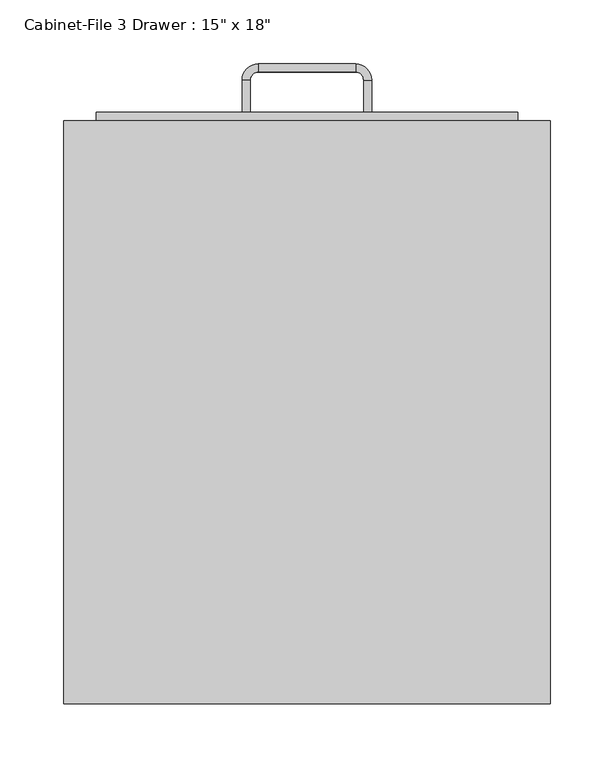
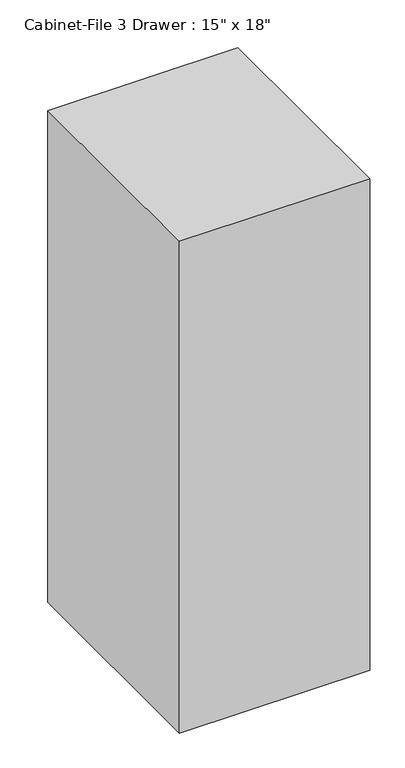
"""IFC4 building model written with IfcOpenShell, lengths in millimetres: furniture geometry."""

import ifcopenshell
import ifcopenshell.guid

model = None  # the IFC model being written
_history = None  # IfcOwnerHistory: only IFC2X3 demands one
_inside = {}  # id of a spatial element -> (the spatial element, [elements in it])
_under = {}  # id of a project, library or spatial element -> (it, [spatial elements below it])
_declared = {}  # id of a project -> (the project, [libraries it declares])
_typed = {}  # id of a type object -> (the type object, [elements of that type])
_made_of = {}  # id of a material, layer set ... -> (it, [elements and type objects made of it])


def new_model(schema):
    """Start an empty IFC model of exactly this schema.

    Asked for "IFC4X3", IfcOpenShell would pick the latest addendum, in which some entities
    have other attributes; the version numbers below select the first issue.
    IFC2X3 requires an IfcOwnerHistory on every rooted entity: one is made here for all.
    """
    global model, _history
    if schema == "IFC4X3":
        model = ifcopenshell.file(schema_version=(4, 3, 0, 0))
    else:
        model = ifcopenshell.file(schema=schema)
    _inside.clear()
    _under.clear()
    _declared.clear()
    _typed.clear()
    _made_of.clear()
    _history = None
    if model.schema == "IFC2X3":
        org = make("IfcOrganization", Name="unknown")
        user = make(
            "IfcPersonAndOrganization",
            ThePerson=make("IfcPerson", FamilyName="unknown"),
            TheOrganization=org,
        )
        app = make(
            "IfcApplication",
            ApplicationDeveloper=org,
            Version="unknown",
            ApplicationFullName="unknown",
            ApplicationIdentifier="unknown",
        )
        _history = make(
            "IfcOwnerHistory",
            OwningUser=user,
            OwningApplication=app,
            ChangeAction="ADDED",
            CreationDate=0,
        )
    return model


def make(cls, **values):
    """One entity of the class cls with the attributes given. An attribute that is None is left unset."""
    return model.create_entity(
        cls, **{name: value for name, value in values.items() if value is not None}
    )


def rooted(cls, **values):
    """An entity with a GlobalId (a new one), such as an element, a storey or a relation."""
    return make(cls, GlobalId=ifcopenshell.guid.new(), OwnerHistory=_history, **values)


def si_unit(unit_type, name, prefix=None):
    """IfcSIUnit, for example si_unit("LENGTHUNIT", "METRE", prefix="MILLI")."""
    return make("IfcSIUnit", UnitType=unit_type, Prefix=prefix, Name=name)


def assignment(units):
    """IfcUnitAssignment: the units of a project."""
    return None if units is None else make("IfcUnitAssignment", Units=units)


def point(xyz):
    """IfcCartesianPoint."""
    return None if xyz is None else make("IfcCartesianPoint", Coordinates=xyz)


def direction(xyz):
    """IfcDirection."""
    return None if xyz is None else make("IfcDirection", DirectionRatios=xyz)


def frame(location, z_axis=None, x_axis=None):
    """IfcAxis2Placement3D, a coordinate frame: its origin and axes. An axis left out is left unset."""
    return make(
        "IfcAxis2Placement3D",
        Location=point(location),
        Axis=direction(z_axis),
        RefDirection=direction(x_axis),
    )


def origin():
    """The frame at (0, 0, 0) with its axes left unset."""
    return frame((0.0, 0.0, 0.0))


def origin_with_axes():
    """The frame at (0, 0, 0) with the z axis (0, 0, 1) and the x axis (1, 0, 0) written out."""
    return frame((0.0, 0.0, 0.0), z_axis=(0.0, 0.0, 1.0), x_axis=(1.0, 0.0, 0.0))


def place(relative_to, where):
    """IfcLocalPlacement: puts the frame where relative to a parent placement (None: the world)."""
    return make(
        "IfcLocalPlacement", PlacementRelTo=relative_to, RelativePlacement=where
    )


def context(
    kind, dimensions, precision=None, world=None, true_north=None, identifier=None
):
    """IfcGeometricRepresentationContext, for example the 3D "Model" context."""
    return make(
        "IfcGeometricRepresentationContext",
        ContextIdentifier=identifier,
        ContextType=kind,
        CoordinateSpaceDimension=dimensions,
        Precision=precision,
        WorldCoordinateSystem=world,
        TrueNorth=true_north,
    )


def project(units=None, contexts=None):
    """IfcProject with its units and contexts."""
    return rooted(
        "IfcProject",
        Name="project",
        RepresentationContexts=contexts,
        UnitsInContext=assignment(units),
    )


def spatial(cls, under=None, at=None, **own):
    """A site, building, storey or space (cls), placed at a placement, below another one or the project."""
    s = rooted(cls, ObjectPlacement=at, **own)
    if under is not None:
        _under.setdefault(under.id(), (under, []))[1].append(s)
    return s


def polyline(points):
    """IfcPolyline through the points."""
    return make("IfcPolyline", Points=[point(p) for p in points])


def circle_curve(where, radius):
    """IfcCircle in the frame where."""
    return make("IfcCircle", Position=where, Radius=radius)


def outline(outer, holes=None, kind="AREA"):
    """IfcArbitraryClosedProfileDef: a profile drawn as a closed curve; with holes, ...WithVoids."""
    if holes is None:
        return make("IfcArbitraryClosedProfileDef", ProfileType=kind, OuterCurve=outer)
    return make(
        "IfcArbitraryProfileDefWithVoids",
        ProfileType=kind,
        OuterCurve=outer,
        InnerCurves=holes,
    )


def extrude(swept, where, along, depth):
    """IfcExtrudedAreaSolid: the profile swept, set in the frame where, extruded along a direction by depth."""
    return make(
        "IfcExtrudedAreaSolid",
        SweptArea=swept,
        Position=where,
        ExtrudedDirection=direction(along),
        Depth=depth,
    )


def shape(context_of_items, identifier, shape_type, items):
    """IfcShapeRepresentation: the items that make up one representation, for example the "Body"."""
    return make(
        "IfcShapeRepresentation",
        ContextOfItems=context_of_items,
        RepresentationIdentifier=identifier,
        RepresentationType=shape_type,
        Items=items,
    )


def source(mapping_origin, context_of_items, identifier, shape_type, items):
    """IfcRepresentationMap: a shape defined once, which mapped items show again and again."""
    return make(
        "IfcRepresentationMap",
        MappingOrigin=mapping_origin,
        MappedRepresentation=shape(context_of_items, identifier, shape_type, items),
    )


def transform(
    local_origin,
    x_axis=None,
    y_axis=None,
    z_axis=None,
    scale=None,
    scale2=None,
    scale3=None,
    uniform=True,
):
    """IfcCartesianTransformationOperator3D, or its non-uniform kind. x_axis, y_axis, z_axis: its Axis1, 2, 3."""
    if uniform:
        return make(
            "IfcCartesianTransformationOperator3D",
            Axis1=direction(x_axis),
            Axis2=direction(y_axis),
            LocalOrigin=point(local_origin),
            Scale=scale,
            Axis3=direction(z_axis),
        )
    return make(
        "IfcCartesianTransformationOperator3DnonUniform",
        Axis1=direction(x_axis),
        Axis2=direction(y_axis),
        LocalOrigin=point(local_origin),
        Scale=scale,
        Axis3=direction(z_axis),
        Scale2=scale2,
        Scale3=scale3,
    )


def mapped(mapping_source, mapping_target):
    """IfcMappedItem: shows the shape of a source again, moved by a transform."""
    return make(
        "IfcMappedItem", MappingSource=mapping_source, MappingTarget=mapping_target
    )


def made_of(thing, what):
    """Note that an element or type object is made of a material, layer set ...; save() writes the relation."""
    if what is not None:
        _made_of.setdefault(what.id(), (what, []))[1].append(thing)
    return thing


def element(
    cls,
    number,
    at=None,
    inside=None,
    cuts=None,
    type_object=None,
    material=None,
    context=None,
    identifier="Body",
    shape_type=None,
    held_by="IfcProductDefinitionShape",
    body=None,
    shapes=None,
    **own,
):
    """One element of the class cls, such as IfcWall. Its Tag is "e" and its number.

    at: its placement. inside: the storey or other place that contains it. cuts: it is an
    opening in that element (IfcRelVoidsElement). A single representation is given by context,
    identifier, shape_type and body (its items); several are given by shapes. held_by: the class
    of the entity that holds the representations. save() writes the other relations.
    """
    e = rooted(cls, Tag="e%d" % number, ObjectPlacement=at, **own)
    if body is not None:
        shapes = [shape(context, identifier, shape_type, body)]
    if shapes is not None:
        e.Representation = make(held_by, Representations=shapes)
    if inside is not None:
        _inside.setdefault(inside.id(), (inside, []))[1].append(e)
    if cuts is not None:
        rooted(
            "IfcRelVoidsElement", RelatingBuildingElement=cuts, RelatedOpeningElement=e
        )
    if type_object is not None:
        _typed.setdefault(type_object.id(), (type_object, []))[1].append(e)
    return made_of(e, material)


def aggregate(whole, parts):
    """IfcRelAggregates: a whole, such as a stair, and the parts it consists of."""
    return rooted("IfcRelAggregates", RelatingObject=whole, RelatedObjects=parts)


def save(model, path):
    """Write the relations noted so far, then the file.

    IfcRelAggregates (storeys below a building ...), IfcRelContainedInSpatialStructure (elements
    in a storey), IfcRelDefinesByType, IfcRelAssociatesMaterial and IfcRelDeclares: one each for
    every whole, place, type object, material and project.
    """
    for whole, parts in _under.values():
        aggregate(whole, parts)
    for where, things in _inside.values():
        rooted(
            "IfcRelContainedInSpatialStructure",
            RelatedElements=things,
            RelatingStructure=where,
        )
    for kind, things in _typed.values():
        rooted("IfcRelDefinesByType", RelatedObjects=things, RelatingType=kind)
    for what, things in _made_of.values():
        rooted("IfcRelAssociatesMaterial", RelatedObjects=things, RelatingMaterial=what)
    for by, libraries in _declared.values():
        rooted("IfcRelDeclares", RelatingContext=by, RelatedDefinitions=libraries)
    model.write(path)


def plane_surface(at):
    """IfcPlane: the flat surface through the origin of the frame at, square to its z axis."""
    return make("IfcPlane", Position=at)


def cylinder_surface(at, radius):
    """IfcCylindricalSurface: all points at the distance radius from the z axis of the frame at."""
    return make("IfcCylindricalSurface", Position=at, Radius=radius)


def revolved_surface(curve, axis_point, axis_direction):
    """IfcSurfaceOfRevolution: the curve turned about the line through axis_point along axis_direction."""
    return make(
        "IfcSurfaceOfRevolution",
        SweptCurve=make("IfcArbitraryOpenProfileDef", ProfileType="CURVE", Curve=curve),
        AxisPosition=make("IfcAxis1Placement", Location=point(axis_point), Axis=direction(axis_direction)),
    )


def advanced_brep(points, edges, surfaces, faces):
    """IfcAdvancedBrep: a solid bounded by faces that lie on surfaces and meet in shared edges.

    An edge is (start, end): straight between two places in points (the first is 0);
    or (start, end, curve); or (start, end, curve, False) where it runs against its curve.
    A face is (place in surfaces, loops), or (place, loops, False) where it looks against
    its surface's normal. A loop lists edges by number (the first is 1), with a minus sign
    where the edge is run from its end to its start. The first loop is the outer one.
    """
    corners = [point(p) for p in points]
    vertices = [make("IfcVertexPoint", VertexGeometry=c) for c in corners]
    made = []
    for start, end, *more in edges:
        made.append(
            make(
                "IfcEdgeCurve",
                EdgeStart=vertices[start],
                EdgeEnd=vertices[end],
                EdgeGeometry=more[0] if more else make("IfcPolyline", Points=[corners[start], corners[end]]),
                SameSense=more[1] if len(more) > 1 else True,
            )
        )
    hull = []
    for where, loops, *sense in faces:
        bounds = []
        for j, loop in enumerate(loops):
            ring = [make("IfcOrientedEdge", EdgeElement=made[abs(k) - 1], Orientation=k > 0) for k in loop]
            bounds.append(
                make(
                    "IfcFaceOuterBound" if j == 0 else "IfcFaceBound",
                    Bound=make("IfcEdgeLoop", EdgeList=ring),
                    Orientation=True,
                )
            )
        hull.append(make("IfcAdvancedFace", Bounds=bounds, FaceSurface=surfaces[where], SameSense=sense[0] if sense else True))
    return make("IfcAdvancedBrep", Outer=make("IfcClosedShell", CfsFaces=hull))


def furniture_48aa8ab9(model_context):
    return source(origin(), model_context, "Body", "SolidModel", [
        extrude(outline(polyline([(62.603553, -86.4656999), (-318.396447, -86.4656999), (-318.396447, 370.7343001), (62.603553, 370.7343001), (62.603553, -86.4656999)])), origin_with_axes(), (0.0, 0.0, 1.0), 1041.4),
        extrude(outline(polyline([(37.203553, 377.0843001), (37.203553, 370.7343001), (-292.996447, 370.7343001), (-292.996447, 377.0843001), (37.203553, 377.0843001)])), frame((0.0, 0.0, 736.6), z_axis=(0.0, 0.0, 1.0), x_axis=(1.0, 0.0, 0.0)), (0.0, 0.0, 1.0), 279.4),
        extrude(outline(polyline([(37.203553, 377.0843001), (37.203553, 370.7343001), (-292.996447, 370.7343001), (-292.996447, 377.0843001), (37.203553, 377.0843001)])), frame((0.0, 0.0, 431.8), z_axis=(0.0, 0.0, 1.0), x_axis=(1.0, 0.0, 0.0)), (0.0, 0.0, 1.0), 279.4),
        extrude(outline(polyline([(37.203553, 377.0843001), (37.203553, 370.7343001), (-292.996447, 370.7343001), (-292.996447, 377.0843001), (37.203553, 377.0843001)])), frame((0.0, 0.0, 127.0), z_axis=(0.0, 0.0, 1.0), x_axis=(1.0, 0.0, 0.0)), (0.0, 0.0, 1.0), 279.4),
        advanced_brep(
        [(-172.346447, 377.0843001, 203.2), (-172.346447, 377.0843001, 215.9), (-178.696447, 377.0843001, 215.9), (-178.696447, 377.0843001, 203.2), (-178.696447, 402.4843001, 203.2), (-172.346447, 402.4843001, 203.2), (-178.696447, 402.4843001, 215.9), (-172.346447, 402.4843001, 215.9), (-165.996447, 415.1843001, 203.2), (-165.996447, 408.8343001, 203.2), (-165.996447, 415.1843001, 215.9), (-165.996447, 408.8343001, 215.9), (-89.796447, 415.1843001, 203.2), (-89.796447, 408.8343001, 203.2), (-89.796447, 415.1843001, 215.9), (-89.796447, 408.8343001, 215.9), (-77.096447, 402.4843001, 203.2), (-83.446447, 402.4843001, 203.2), (-77.096447, 402.4843001, 215.9), (-83.446447, 402.4843001, 215.9), (-83.446447, 377.0843001, 203.2), (-77.096447, 377.0843001, 203.2), (-77.096447, 377.0843001, 215.9), (-83.446447, 377.0843001, 215.9)],
        [
            (0, 1),
            (1, 2),
            (2, 3),
            (3, 0),
            (3, 4),
            (4, 5),
            (5, 0),
            (2, 6),
            (6, 4),
            (1, 7),
            (7, 6),
            (5, 7),
            (8, 9),
            (9, 5, circle_curve(frame((-165.996447, 402.4843001, 203.2), z_axis=(0.0, 0.0, 1.0), x_axis=(-1.0, 0.0, 0.0)), 6.35)),
            (4, 8, circle_curve(frame((-165.996447, 402.4843001, 203.2), z_axis=(0.0, 0.0, -1.0), x_axis=(-1.0, 0.0, 0.0)), 12.7)),
            (10, 8),
            (6, 10, circle_curve(frame((-165.996447, 402.4843001, 215.9), z_axis=(0.0, 0.0, -1.0), x_axis=(-1.0, 0.0, 0.0)), 12.7)),
            (11, 10),
            (7, 11, circle_curve(frame((-165.996447, 402.4843001, 215.9), z_axis=(0.0, 0.0, -1.0), x_axis=(-1.0, 0.0, 0.0)), 6.35)),
            (9, 11),
            (8, 12),
            (12, 13),
            (13, 9),
            (10, 14),
            (14, 12),
            (11, 15),
            (15, 14),
            (13, 15),
            (16, 17),
            (17, 13, circle_curve(frame((-89.796447, 402.4843001, 203.2), z_axis=(0.0, 0.0, 1.0), x_axis=(0.0, 1.0, 0.0)), 6.35)),
            (12, 16, circle_curve(frame((-89.796447, 402.4843001, 203.2), z_axis=(0.0, 0.0, -1.0), x_axis=(0.0, 1.0, 0.0)), 12.7)),
            (18, 16),
            (14, 18, circle_curve(frame((-89.796447, 402.4843001, 215.9), z_axis=(0.0, 0.0, -1.0), x_axis=(0.0, 1.0, 0.0)), 12.7)),
            (19, 18),
            (15, 19, circle_curve(frame((-89.796447, 402.4843001, 215.9), z_axis=(0.0, 0.0, -1.0), x_axis=(0.0, 1.0, 0.0)), 6.35)),
            (17, 19),
            (20, 21),
            (21, 22),
            (22, 23),
            (23, 20),
            (16, 21),
            (20, 17),
            (18, 22),
            (19, 23),
        ],
        [
            plane_surface(frame((-978.8216451, 377.0843001, 0.0), z_axis=(0.0, -1.0, 0.0), x_axis=(0.0, 0.0, -1.0))),
            plane_surface(frame((-172.346447, 377.0843001, 203.2), z_axis=(0.0, 0.0, -1.0), x_axis=(0.0, 1.0, 0.0))),
            plane_surface(frame((-178.696447, 377.0843001, 203.2), z_axis=(-1.0, 0.0, 0.0), x_axis=(0.0, 1.0, 0.0))),
            plane_surface(frame((-178.696447, 377.0843001, 215.9), z_axis=(0.0, 0.0, 1.0), x_axis=(0.0, 1.0, 0.0))),
            plane_surface(frame((-172.346447, 377.0843001, 215.9), z_axis=(1.0, 0.0, 0.0), x_axis=(0.0, 1.0, 0.0))),
            plane_surface(frame((-165.996447, 402.4843001, 203.2), z_axis=(0.0, 0.0, -1.0), x_axis=(-1.0, 0.0, 0.0))),
            cylinder_surface(frame((-165.996447, 402.4843001, 0.0), z_axis=(0.0, 0.0, 1.0), x_axis=(-1.0, 0.0, 0.0)), 12.7),
            plane_surface(frame((-165.996447, 402.4843001, 215.9), z_axis=(0.0, 0.0, 1.0), x_axis=(-1.0, 0.0, 0.0))),
            revolved_surface(polyline([(-172.34644699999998, 402.4843001, 215.9), (-172.34644699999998, 402.4843001, 203.2)]), (-165.996447, 402.4843001, 0.0), (0.0, 0.0, 1.0)),
            plane_surface(frame((-165.996447, 408.8343001, 203.2), z_axis=(0.0, 0.0, -1.0), x_axis=(1.0, 0.0, 0.0))),
            plane_surface(frame((-165.996447, 415.1843001, 203.2), z_axis=(0.0, 1.0, 0.0), x_axis=(1.0, 0.0, 0.0))),
            plane_surface(frame((-165.996447, 415.1843001, 215.9), z_axis=(0.0, 0.0, 1.0), x_axis=(1.0, 0.0, 0.0))),
            plane_surface(frame((-165.996447, 408.8343001, 215.9), z_axis=(0.0, -1.0, 0.0), x_axis=(1.0, 0.0, 0.0))),
            plane_surface(frame((-89.796447, 402.4843001, 203.2), z_axis=(0.0, 0.0, -1.0), x_axis=(0.0, 1.0, 0.0))),
            cylinder_surface(frame((-89.796447, 402.4843001, 0.0), z_axis=(0.0, 0.0, 1.0), x_axis=(0.0, 1.0, 0.0)), 12.7),
            plane_surface(frame((-89.796447, 402.4843001, 215.9), z_axis=(0.0, 0.0, 1.0), x_axis=(0.0, 1.0, 0.0))),
            revolved_surface(polyline([(-89.796447, 408.8343001, 215.9), (-89.796447, 408.8343001, 203.2)]), (-89.796447, 402.4843001, 0.0), (0.0, 0.0, 1.0)),
            plane_surface(frame((-877.2216451, 377.0843001, 0.0), z_axis=(0.0, -1.0, 0.0), x_axis=(0.0, 0.0, 1.0))),
            plane_surface(frame((-83.446447, 402.4843001, 203.2), z_axis=(0.0, 0.0, -1.0), x_axis=(0.0, -1.0, 0.0))),
            plane_surface(frame((-77.096447, 402.4843001, 203.2), z_axis=(1.0, 0.0, 0.0), x_axis=(0.0, -1.0, 0.0))),
            plane_surface(frame((-77.096447, 402.4843001, 215.9), z_axis=(0.0, 0.0, 1.0), x_axis=(0.0, -1.0, 0.0))),
            plane_surface(frame((-83.446447, 402.4843001, 215.9), z_axis=(-1.0, 0.0, 0.0), x_axis=(0.0, -1.0, 0.0))),
        ],
        [
            (0, [[1, 2, 3, 4]]),
            (1, [[5, 6, 7, -4]]),
            (2, [[8, 9, -5, -3]]),
            (3, [[10, 11, -8, -2]]),
            (4, [[-7, 12, -10, -1]]),
            (5, [[13, 14, -6, 15]]),
            (6, [[16, -15, -9, 17]]),
            (7, [[18, -17, -11, 19]]),
            (8, [[20, -19, -12, -14]]),
            (9, [[21, 22, 23, -13]]),
            (10, [[24, 25, -21, -16]]),
            (11, [[26, 27, -24, -18]]),
            (12, [[-23, 28, -26, -20]]),
            (13, [[29, 30, -22, 31]]),
            (14, [[32, -31, -25, 33]]),
            (15, [[34, -33, -27, 35]]),
            (16, [[36, -35, -28, -30]]),
            (17, [[37, 38, 39, 40]]),
            (18, [[41, -37, 42, -29]]),
            (19, [[43, -38, -41, -32]]),
            (20, [[44, -39, -43, -34]]),
            (21, [[-42, -40, -44, -36]]),
        ],
    ),
        advanced_brep(
        [(-172.346447, 377.0843001, 482.6), (-172.346447, 377.0843001, 495.3), (-178.696447, 377.0843001, 495.3), (-178.696447, 377.0843001, 482.6), (-178.696447, 402.4843001, 482.6), (-172.346447, 402.4843001, 482.6), (-178.696447, 402.4843001, 495.3), (-172.346447, 402.4843001, 495.3), (-165.996447, 415.1843001, 482.6), (-165.996447, 408.8343001, 482.6), (-165.996447, 415.1843001, 495.3), (-165.996447, 408.8343001, 495.3), (-89.796447, 415.1843001, 482.6), (-89.796447, 408.8343001, 482.6), (-89.796447, 415.1843001, 495.3), (-89.796447, 408.8343001, 495.3), (-77.096447, 402.4843001, 482.6), (-83.446447, 402.4843001, 482.6), (-77.096447, 402.4843001, 495.3), (-83.446447, 402.4843001, 495.3), (-83.446447, 377.0843001, 482.6), (-77.096447, 377.0843001, 482.6), (-77.096447, 377.0843001, 495.3), (-83.446447, 377.0843001, 495.3)],
        [
            (0, 1),
            (1, 2),
            (2, 3),
            (3, 0),
            (3, 4),
            (4, 5),
            (5, 0),
            (2, 6),
            (6, 4),
            (1, 7),
            (7, 6),
            (5, 7),
            (8, 9),
            (9, 5, circle_curve(frame((-165.996447, 402.4843001, 482.6), z_axis=(0.0, 0.0, 1.0), x_axis=(-1.0, 0.0, 0.0)), 6.35)),
            (4, 8, circle_curve(frame((-165.996447, 402.4843001, 482.6), z_axis=(0.0, 0.0, -1.0), x_axis=(-1.0, 0.0, 0.0)), 12.7)),
            (10, 8),
            (6, 10, circle_curve(frame((-165.996447, 402.4843001, 495.3), z_axis=(0.0, 0.0, -1.0), x_axis=(-1.0, 0.0, 0.0)), 12.7)),
            (11, 10),
            (7, 11, circle_curve(frame((-165.996447, 402.4843001, 495.3), z_axis=(0.0, 0.0, -1.0), x_axis=(-1.0, 0.0, 0.0)), 6.35)),
            (9, 11),
            (8, 12),
            (12, 13),
            (13, 9),
            (10, 14),
            (14, 12),
            (11, 15),
            (15, 14),
            (13, 15),
            (16, 17),
            (17, 13, circle_curve(frame((-89.796447, 402.4843001, 482.6), z_axis=(0.0, 0.0, 1.0), x_axis=(0.0, 1.0, 0.0)), 6.35)),
            (12, 16, circle_curve(frame((-89.796447, 402.4843001, 482.6), z_axis=(0.0, 0.0, -1.0), x_axis=(0.0, 1.0, 0.0)), 12.7)),
            (18, 16),
            (14, 18, circle_curve(frame((-89.796447, 402.4843001, 495.3), z_axis=(0.0, 0.0, -1.0), x_axis=(0.0, 1.0, 0.0)), 12.7)),
            (19, 18),
            (15, 19, circle_curve(frame((-89.796447, 402.4843001, 495.3), z_axis=(0.0, 0.0, -1.0), x_axis=(0.0, 1.0, 0.0)), 6.35)),
            (17, 19),
            (20, 21),
            (21, 22),
            (22, 23),
            (23, 20),
            (16, 21),
            (20, 17),
            (18, 22),
            (19, 23),
        ],
        [
            plane_surface(frame((-978.8216451, 377.0843001, 0.0), z_axis=(0.0, -1.0, 0.0), x_axis=(0.0, 0.0, -1.0))),
            plane_surface(frame((-172.346447, 377.0843001, 482.6), z_axis=(0.0, 0.0, -1.0), x_axis=(0.0, 1.0, 0.0))),
            plane_surface(frame((-178.696447, 377.0843001, 482.6), z_axis=(-1.0, 0.0, 0.0), x_axis=(0.0, 1.0, 0.0))),
            plane_surface(frame((-178.696447, 377.0843001, 495.3), z_axis=(0.0, 0.0, 1.0), x_axis=(0.0, 1.0, 0.0))),
            plane_surface(frame((-172.346447, 377.0843001, 495.3), z_axis=(1.0, 0.0, 0.0), x_axis=(0.0, 1.0, 0.0))),
            plane_surface(frame((-165.996447, 402.4843001, 482.6), z_axis=(0.0, 0.0, -1.0), x_axis=(-1.0, 0.0, 0.0))),
            cylinder_surface(frame((-165.996447, 402.4843001, 0.0), z_axis=(0.0, 0.0, 1.0), x_axis=(-1.0, 0.0, 0.0)), 12.7),
            plane_surface(frame((-165.996447, 402.4843001, 495.3), z_axis=(0.0, 0.0, 1.0), x_axis=(-1.0, 0.0, 0.0))),
            revolved_surface(polyline([(-172.34644699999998, 402.4843001, 495.3), (-172.34644699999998, 402.4843001, 482.6)]), (-165.996447, 402.4843001, 0.0), (0.0, 0.0, 1.0)),
            plane_surface(frame((-165.996447, 408.8343001, 482.6), z_axis=(0.0, 0.0, -1.0), x_axis=(1.0, 0.0, 0.0))),
            plane_surface(frame((-165.996447, 415.1843001, 482.6), z_axis=(0.0, 1.0, 0.0), x_axis=(1.0, 0.0, 0.0))),
            plane_surface(frame((-165.996447, 415.1843001, 495.3), z_axis=(0.0, 0.0, 1.0), x_axis=(1.0, 0.0, 0.0))),
            plane_surface(frame((-165.996447, 408.8343001, 495.3), z_axis=(0.0, -1.0, 0.0), x_axis=(1.0, 0.0, 0.0))),
            plane_surface(frame((-89.796447, 402.4843001, 482.6), z_axis=(0.0, 0.0, -1.0), x_axis=(0.0, 1.0, 0.0))),
            cylinder_surface(frame((-89.796447, 402.4843001, 0.0), z_axis=(0.0, 0.0, 1.0), x_axis=(0.0, 1.0, 0.0)), 12.7),
            plane_surface(frame((-89.796447, 402.4843001, 495.3), z_axis=(0.0, 0.0, 1.0), x_axis=(0.0, 1.0, 0.0))),
            revolved_surface(polyline([(-89.796447, 408.8343001, 495.3), (-89.796447, 408.8343001, 482.6)]), (-89.796447, 402.4843001, 0.0), (0.0, 0.0, 1.0)),
            plane_surface(frame((-877.2216451, 377.0843001, 0.0), z_axis=(0.0, -1.0, 0.0), x_axis=(0.0, 0.0, 1.0))),
            plane_surface(frame((-83.446447, 402.4843001, 482.6), z_axis=(0.0, 0.0, -1.0), x_axis=(0.0, -1.0, 0.0))),
            plane_surface(frame((-77.096447, 402.4843001, 482.6), z_axis=(1.0, 0.0, 0.0), x_axis=(0.0, -1.0, 0.0))),
            plane_surface(frame((-77.096447, 402.4843001, 495.3), z_axis=(0.0, 0.0, 1.0), x_axis=(0.0, -1.0, 0.0))),
            plane_surface(frame((-83.446447, 402.4843001, 495.3), z_axis=(-1.0, 0.0, 0.0), x_axis=(0.0, -1.0, 0.0))),
        ],
        [
            (0, [[1, 2, 3, 4]]),
            (1, [[5, 6, 7, -4]]),
            (2, [[8, 9, -5, -3]]),
            (3, [[10, 11, -8, -2]]),
            (4, [[-7, 12, -10, -1]]),
            (5, [[13, 14, -6, 15]]),
            (6, [[16, -15, -9, 17]]),
            (7, [[18, -17, -11, 19]]),
            (8, [[20, -19, -12, -14]]),
            (9, [[21, 22, 23, -13]]),
            (10, [[24, 25, -21, -16]]),
            (11, [[26, 27, -24, -18]]),
            (12, [[-23, 28, -26, -20]]),
            (13, [[29, 30, -22, 31]]),
            (14, [[32, -31, -25, 33]]),
            (15, [[34, -33, -27, 35]]),
            (16, [[36, -35, -28, -30]]),
            (17, [[37, 38, 39, 40]]),
            (18, [[41, -37, 42, -29]]),
            (19, [[43, -38, -41, -32]]),
            (20, [[44, -39, -43, -34]]),
            (21, [[-42, -40, -44, -36]]),
        ],
    ),
        advanced_brep(
        [(-172.346447, 377.0843001, 787.4), (-172.346447, 377.0843001, 800.1), (-178.696447, 377.0843001, 800.1), (-178.696447, 377.0843001, 787.4), (-178.696447, 402.4843001, 787.4), (-172.346447, 402.4843001, 787.4), (-178.696447, 402.4843001, 800.1), (-172.346447, 402.4843001, 800.1), (-165.996447, 415.1843001, 787.4), (-165.996447, 408.8343001, 787.4), (-165.996447, 415.1843001, 800.1), (-165.996447, 408.8343001, 800.1), (-89.796447, 415.1843001, 787.4), (-89.796447, 408.8343001, 787.4), (-89.796447, 415.1843001, 800.1), (-89.796447, 408.8343001, 800.1), (-77.096447, 402.4843001, 787.4), (-83.446447, 402.4843001, 787.4), (-77.096447, 402.4843001, 800.1), (-83.446447, 402.4843001, 800.1), (-83.446447, 377.0843001, 787.4), (-77.096447, 377.0843001, 787.4), (-77.096447, 377.0843001, 800.1), (-83.446447, 377.0843001, 800.1)],
        [
            (0, 1),
            (1, 2),
            (2, 3),
            (3, 0),
            (3, 4),
            (4, 5),
            (5, 0),
            (2, 6),
            (6, 4),
            (1, 7),
            (7, 6),
            (5, 7),
            (8, 9),
            (9, 5, circle_curve(frame((-165.996447, 402.4843001, 787.4), z_axis=(0.0, 0.0, 1.0), x_axis=(-1.0, 0.0, 0.0)), 6.35)),
            (4, 8, circle_curve(frame((-165.996447, 402.4843001, 787.4), z_axis=(0.0, 0.0, -1.0), x_axis=(-1.0, 0.0, 0.0)), 12.7)),
            (10, 8),
            (6, 10, circle_curve(frame((-165.996447, 402.4843001, 800.1), z_axis=(0.0, 0.0, -1.0), x_axis=(-1.0, 0.0, 0.0)), 12.7)),
            (11, 10),
            (7, 11, circle_curve(frame((-165.996447, 402.4843001, 800.1), z_axis=(0.0, 0.0, -1.0), x_axis=(-1.0, 0.0, 0.0)), 6.35)),
            (9, 11),
            (8, 12),
            (12, 13),
            (13, 9),
            (10, 14),
            (14, 12),
            (11, 15),
            (15, 14),
            (13, 15),
            (16, 17),
            (17, 13, circle_curve(frame((-89.796447, 402.4843001, 787.4), z_axis=(0.0, 0.0, 1.0), x_axis=(0.0, 1.0, 0.0)), 6.35)),
            (12, 16, circle_curve(frame((-89.796447, 402.4843001, 787.4), z_axis=(0.0, 0.0, -1.0), x_axis=(0.0, 1.0, 0.0)), 12.7)),
            (18, 16),
            (14, 18, circle_curve(frame((-89.796447, 402.4843001, 800.1), z_axis=(0.0, 0.0, -1.0), x_axis=(0.0, 1.0, 0.0)), 12.7)),
            (19, 18),
            (15, 19, circle_curve(frame((-89.796447, 402.4843001, 800.1), z_axis=(0.0, 0.0, -1.0), x_axis=(0.0, 1.0, 0.0)), 6.35)),
            (17, 19),
            (20, 21),
            (21, 22),
            (22, 23),
            (23, 20),
            (16, 21),
            (20, 17),
            (18, 22),
            (19, 23),
        ],
        [
            plane_surface(frame((-978.8216451, 377.0843001, 0.0), z_axis=(0.0, -1.0, 0.0), x_axis=(0.0, 0.0, -1.0))),
            plane_surface(frame((-172.346447, 377.0843001, 787.4), z_axis=(0.0, 0.0, -1.0), x_axis=(0.0, 1.0, 0.0))),
            plane_surface(frame((-178.696447, 377.0843001, 787.4), z_axis=(-1.0, 0.0, 0.0), x_axis=(0.0, 1.0, 0.0))),
            plane_surface(frame((-178.696447, 377.0843001, 800.1), z_axis=(0.0, 0.0, 1.0), x_axis=(0.0, 1.0, 0.0))),
            plane_surface(frame((-172.346447, 377.0843001, 800.1), z_axis=(1.0, 0.0, 0.0), x_axis=(0.0, 1.0, 0.0))),
            plane_surface(frame((-165.996447, 402.4843001, 787.4), z_axis=(0.0, 0.0, -1.0), x_axis=(-1.0, 0.0, 0.0))),
            cylinder_surface(frame((-165.996447, 402.4843001, 0.0), z_axis=(0.0, 0.0, 1.0), x_axis=(-1.0, 0.0, 0.0)), 12.7),
            plane_surface(frame((-165.996447, 402.4843001, 800.1), z_axis=(0.0, 0.0, 1.0), x_axis=(-1.0, 0.0, 0.0))),
            revolved_surface(polyline([(-172.34644699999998, 402.4843001, 800.1), (-172.34644699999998, 402.4843001, 787.4)]), (-165.996447, 402.4843001, 0.0), (0.0, 0.0, 1.0)),
            plane_surface(frame((-165.996447, 408.8343001, 787.4), z_axis=(0.0, 0.0, -1.0), x_axis=(1.0, 0.0, 0.0))),
            plane_surface(frame((-165.996447, 415.1843001, 787.4), z_axis=(0.0, 1.0, 0.0), x_axis=(1.0, 0.0, 0.0))),
            plane_surface(frame((-165.996447, 415.1843001, 800.1), z_axis=(0.0, 0.0, 1.0), x_axis=(1.0, 0.0, 0.0))),
            plane_surface(frame((-165.996447, 408.8343001, 800.1), z_axis=(0.0, -1.0, 0.0), x_axis=(1.0, 0.0, 0.0))),
            plane_surface(frame((-89.796447, 402.4843001, 787.4), z_axis=(0.0, 0.0, -1.0), x_axis=(0.0, 1.0, 0.0))),
            cylinder_surface(frame((-89.796447, 402.4843001, 0.0), z_axis=(0.0, 0.0, 1.0), x_axis=(0.0, 1.0, 0.0)), 12.7),
            plane_surface(frame((-89.796447, 402.4843001, 800.1), z_axis=(0.0, 0.0, 1.0), x_axis=(0.0, 1.0, 0.0))),
            revolved_surface(polyline([(-89.796447, 408.8343001, 800.1), (-89.796447, 408.8343001, 787.4)]), (-89.796447, 402.4843001, 0.0), (0.0, 0.0, 1.0)),
            plane_surface(frame((-877.2216451, 377.0843001, 0.0), z_axis=(0.0, -1.0, 0.0), x_axis=(0.0, 0.0, 1.0))),
            plane_surface(frame((-83.446447, 402.4843001, 787.4), z_axis=(0.0, 0.0, -1.0), x_axis=(0.0, -1.0, 0.0))),
            plane_surface(frame((-77.096447, 402.4843001, 787.4), z_axis=(1.0, 0.0, 0.0), x_axis=(0.0, -1.0, 0.0))),
            plane_surface(frame((-77.096447, 402.4843001, 800.1), z_axis=(0.0, 0.0, 1.0), x_axis=(0.0, -1.0, 0.0))),
            plane_surface(frame((-83.446447, 402.4843001, 800.1), z_axis=(-1.0, 0.0, 0.0), x_axis=(0.0, -1.0, 0.0))),
        ],
        [
            (0, [[1, 2, 3, 4]]),
            (1, [[5, 6, 7, -4]]),
            (2, [[8, 9, -5, -3]]),
            (3, [[10, 11, -8, -2]]),
            (4, [[-7, 12, -10, -1]]),
            (5, [[13, 14, -6, 15]]),
            (6, [[16, -15, -9, 17]]),
            (7, [[18, -17, -11, 19]]),
            (8, [[20, -19, -12, -14]]),
            (9, [[21, 22, 23, -13]]),
            (10, [[24, 25, -21, -16]]),
            (11, [[26, 27, -24, -18]]),
            (12, [[-23, 28, -26, -20]]),
            (13, [[29, 30, -22, 31]]),
            (14, [[32, -31, -25, 33]]),
            (15, [[34, -33, -27, 35]]),
            (16, [[36, -35, -28, -30]]),
            (17, [[37, 38, 39, 40]]),
            (18, [[41, -37, 42, -29]]),
            (19, [[43, -38, -41, -32]]),
            (20, [[44, -39, -43, -34]]),
            (21, [[-42, -40, -44, -36]]),
        ],
    ),
    ])


if __name__ == "__main__":
    model = new_model("IFC4")
    model_context = context("Model", 3, world=origin())
    ifc_project = project(units=[si_unit("LENGTHUNIT", "METRE", prefix="MILLI")], contexts=[model_context])
    site = spatial("IfcSite", under=ifc_project)
    building = spatial("IfcBuilding", under=site)
    placement = place(None, origin())
    furniture_shape = furniture_48aa8ab9(model_context)
    element("IfcFurniture", 1, ObjectType="Cabinet-File 3 Drawer : 15\" x 18\"", at=placement, inside=building, context=model_context, shape_type="MappedRepresentation", body=[
        mapped(furniture_shape, transform((0.0, 0.0, 0.0), x_axis=(1.0, 0.0, 0.0), y_axis=(0.0, 1.0, 0.0), z_axis=(0.0, 0.0, 1.0))),
    ])
    save(model, "model.ifc")
